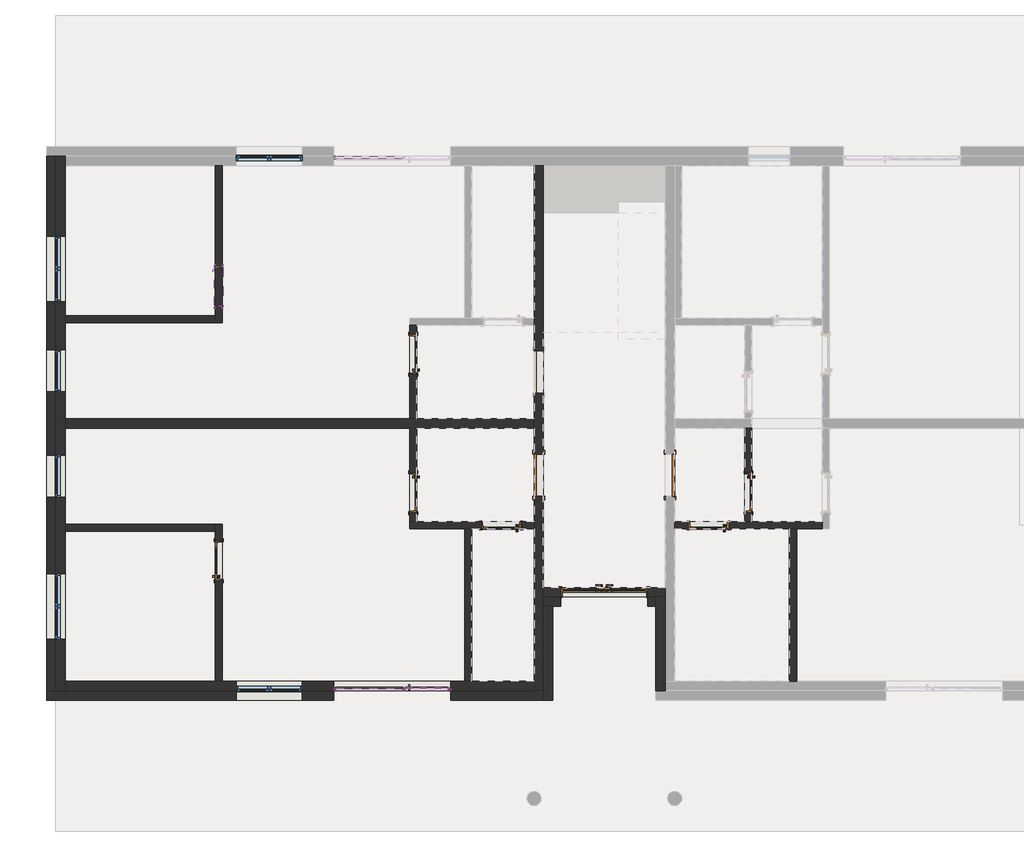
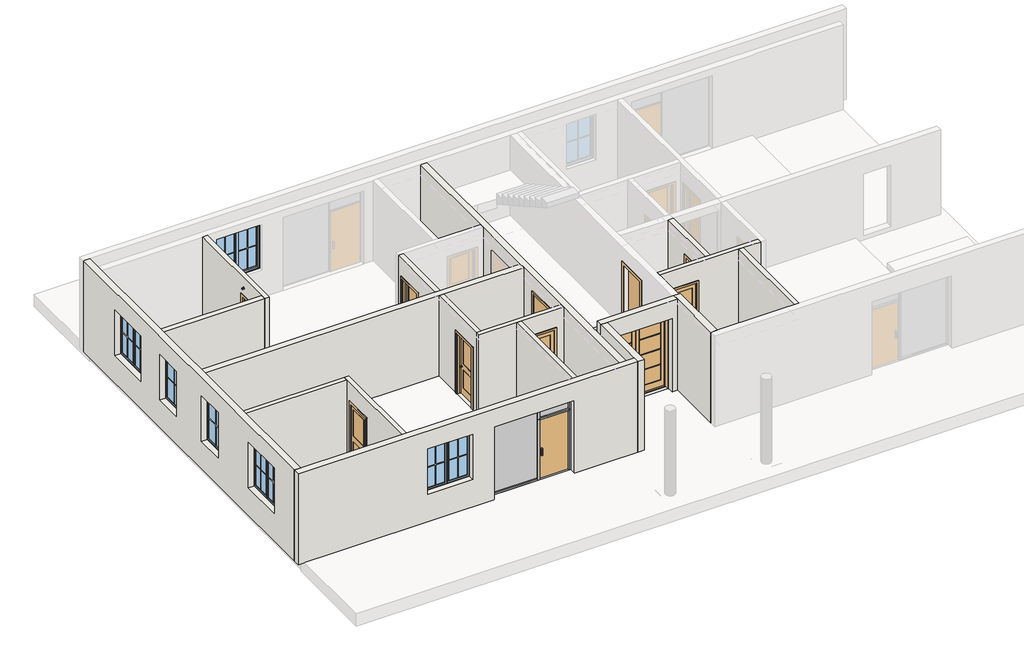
# One storey, part 1 of 3: 21 walls, 12 members, 11 doors, 6 windows, 2 plates.
"""IFC4 building model written with IfcOpenShell, lengths in millimetres."""

from ifc_helpers import new_model, si_unit, frame, origin, place, context, project, spatial, polyline, outline, extrude, faceted_brep, transform, mapped, element, save
from components import door_21d3b074, door_1800_x_2400mm_5ec7ffea, door_800_x_2000mm_7a4eaae7, door_800_x_2000mm_50fb24a1, door_800_x_2000mm_2_3f67a98c, door_900_x_2100mm_4fa88ec2, door_900_x_2100mm_1d00f630, member_50x50_mm_0b25df5f, member_50x50_mm_3bf2a5da, member_50x50_mm_d57dae31, member_50x50_mm_7f53e2b4, member_50x50_mm_58209b6d, member_50x50_mm_0f4eb3cd, member_50x50_mm_521fa47b, plate_9c89f185, plate_e159d5d1, window_1400_x_1500mm_e7e683e0, window_900_x_1500mm_75a88522

model = new_model("IFC4")

# Units and contexts
model_context = context("Model", 3, world=origin())
ifc_project = project(units=[si_unit("LENGTHUNIT", "METRE", prefix="MILLI")], contexts=[model_context])

# Site, building, storey
site = spatial("IfcSite", under=ifc_project)
building = spatial("IfcBuilding", under=site)
storey = spatial("IfcBuildingStorey", under=building, Name="Podlaží 1", Elevation=0.0)

# Doors
placement = place(None, origin())
door_shape = door_21d3b074(model_context)
element("IfcDoor", 1, ObjectType="M_Dveře, obvodový plášť, jednoduché zasklení : M_Dveře, obvodový plášť, jednoduché zasklení", at=placement, inside=storey, context=model_context, shape_type="MappedRepresentation", body=[
    mapped(door_shape, transform((7712.5, 2325.0, 0.0), x_axis=(1.0, 0.0, 0.0), y_axis=(0.0, 1.0, 0.0), z_axis=(0.0, 0.0, 1.0))),
])
door_1800_x_2400mm_shape = door_1800_x_2400mm_5ec7ffea(model_context)
element("IfcDoor", 2, ObjectType="M_Dveře, vnější, dvoukřídlé, prosklené, dřevo, obklad : 1800 x 2400mm", at=placement, inside=storey, context=model_context, shape_type="MappedRepresentation", body=[
    mapped(door_1800_x_2400mm_shape, transform((11500.0, 4403.175, 0.0), x_axis=(1.0, 0.0, 0.0), y_axis=(0.0, 1.0, 0.0), z_axis=(0.0, 0.0, 1.0))),
])
door_800_x_2000mm_shape = door_800_x_2000mm_7a4eaae7(model_context)
element("IfcDoor", 3, ObjectType="M_Dveře, vnitřní, jednokřídlé, dvě části, panel, dřevo : 800 x 2000mm", at=placement, inside=storey, context=model_context, shape_type="MappedRepresentation", body=[
    mapped(door_800_x_2000mm_shape, transform((7428.175, 9475.0, 0.0), x_axis=(0.0, 1.0, 0.0), y_axis=(-1.0, 0.0, 0.0), z_axis=(0.0, 0.0, 1.0))),
])
door_800_x_2000mm_2_shape = door_800_x_2000mm_50fb24a1(model_context)
element("IfcDoor", 4, ObjectType="M_Dveře, vnitřní, jednokřídlé, dvě části, panel, dřevo : 800 x 2000mm", at=placement, inside=storey, context=model_context, shape_type="MappedRepresentation", body=[
    mapped(door_800_x_2000mm_2_shape, transform((9300.0, 5821.825, 0.0), x_axis=(-1.0, 0.0, 0.0), y_axis=(0.0, -1.0, 0.0), z_axis=(0.0, 0.0, 1.0))),
])
element("IfcDoor", 5, ObjectType="M_Dveře, vnitřní, jednokřídlé, dvě části, panel, dřevo : 800 x 2000mm", at=placement, inside=storey, context=model_context, shape_type="MappedRepresentation", body=[
    mapped(door_800_x_2000mm_2_shape, transform((7428.175, 6525.0, 0.0), x_axis=(0.0, -1.0, 0.0), y_axis=(1.0, 0.0, 0.0), z_axis=(0.0, 0.0, 1.0))),
])
element("IfcDoor", 6, ObjectType="M_Dveře, vnitřní, jednokřídlé, dvě části, panel, dřevo : 800 x 2000mm", at=placement, inside=storey, context=model_context, shape_type="MappedRepresentation", body=[
    mapped(door_800_x_2000mm_2_shape, transform((3271.825, 5075.0, 0.0), x_axis=(0.0, 1.0, 0.0), y_axis=(-1.0, 0.0, 0.0), z_axis=(0.0, 0.0, 1.0))),
])
element("IfcDoor", 7, ObjectType="M_Dveře, vnitřní, jednokřídlé, dvě části, panel, dřevo : 800 x 2000mm", at=placement, inside=storey, context=model_context, shape_type="MappedRepresentation", body=[
    mapped(door_800_x_2000mm_2_shape, transform((14578.175, 6525.0, 0.0), x_axis=(0.0, -1.0, 0.0), y_axis=(1.0, 0.0, 0.0), z_axis=(0.0, 0.0, 1.0))),
])
element("IfcDoor", 8, ObjectType="M_Dveře, vnitřní, jednokřídlé, dvě části, panel, dřevo : 800 x 2000mm", at=placement, inside=storey, context=model_context, shape_type="MappedRepresentation", body=[
    mapped(door_800_x_2000mm_2_shape, transform((13725.0, 5821.825, 0.0), x_axis=(-1.0, 0.0, 0.0), y_axis=(0.0, -1.0, 0.0), z_axis=(0.0, 0.0, 1.0))),
])
door_800_x_2000mm_2_2_shape = door_800_x_2000mm_2_3f67a98c(model_context)
element("IfcDoor", 9, ObjectType="M_Dveře, vnitřní, jednokřídlé, dvě části, panel, dřevo : 800 x 2000mm 2", at=placement, inside=storey, context=model_context, shape_type="MappedRepresentation", body=[
    mapped(door_800_x_2000mm_2_2_shape, transform((3271.825, 10925.0, 1400.0), x_axis=(0.0, -1.0, 0.0), y_axis=(1.0, 0.0, 0.0), z_axis=(0.0, 0.0, 1.0))),
])
door_900_x_2100mm_shape = door_900_x_2100mm_4fa88ec2(model_context)
element("IfcDoor", 10, ObjectType="M_Dveře, jednokřídlé, panel : 900 x 2100mm", at=placement, inside=storey, context=model_context, shape_type="MappedRepresentation", body=[
    mapped(door_900_x_2100mm_shape, transform((12900.0, 6900.0, 0.0), x_axis=(0.0, 1.0, 0.0), y_axis=(-1.0, 0.0, 0.0), z_axis=(0.0, 0.0, 1.0))),
])
door_900_x_2100mm_2_shape = door_900_x_2100mm_1d00f630(model_context)
element("IfcDoor", 11, ObjectType="M_Dveře, jednokřídlé, panel : 900 x 2100mm", at=placement, inside=storey, context=model_context, shape_type="MappedRepresentation", body=[
    mapped(door_900_x_2100mm_2_shape, transform((10100.0, 6900.0, 0.0), x_axis=(0.0, 1.0, 0.0), y_axis=(-1.0, 0.0, 0.0), z_axis=(0.0, 0.0, 1.0))),
])

# Members
member_50x50_mm_shape = member_50x50_mm_0b25df5f(model_context)
element("IfcMember", 12, ObjectType="Obdélníková příčel : 50x50 mm", at=placement, inside=storey, context=model_context, shape_type="MappedRepresentation", body=[
    mapped(member_50x50_mm_shape, transform((5775.0, 2325.0, 2400.0), x_axis=(0.0, 0.0, 1.0), y_axis=(0.0, 1.0, 0.0), z_axis=(-1.0, 0.0, 0.0))),
])
member_50x50_mm_2_shape = member_50x50_mm_3bf2a5da(model_context)
element("IfcMember", 13, ObjectType="Obdélníková příčel : 50x50 mm", at=placement, inside=storey, context=model_context, shape_type="MappedRepresentation", body=[
    mapped(member_50x50_mm_2_shape, transform((7225.0, 2325.0, 0.0), x_axis=(-1.0, 0.0, 0.0), y_axis=(0.0, 1.0, 0.0), z_axis=(0.0, 0.0, -1.0))),
])
member_50x50_mm_3_shape = member_50x50_mm_d57dae31(model_context)
element("IfcMember", 14, ObjectType="Obdélníková příčel : 50x50 mm", at=placement, inside=storey, context=model_context, shape_type="MappedRepresentation", body=[
    mapped(member_50x50_mm_3_shape, transform((7250.0, 2325.0, 2000.0), x_axis=(0.0, 0.0, 1.0), y_axis=(0.0, 1.0, 0.0), z_axis=(-1.0, 0.0, 0.0))),
])
element("IfcMember", 15, ObjectType="Obdélníková příčel : 50x50 mm", at=placement, inside=storey, context=model_context, shape_type="MappedRepresentation", body=[
    mapped(member_50x50_mm_shape, transform((7200.0, 2325.0, 0.0), x_axis=(0.0, 0.0, -1.0), y_axis=(0.0, 1.0, 0.0), z_axis=(1.0, 0.0, 0.0))),
])
member_50x50_mm_4_shape = member_50x50_mm_7f53e2b4(model_context)
element("IfcMember", 16, ObjectType="Obdélníková příčel : 50x50 mm", at=placement, inside=storey, context=model_context, shape_type="MappedRepresentation", body=[
    mapped(member_50x50_mm_4_shape, transform((7250.0, 2325.0, 2400.0), x_axis=(0.0, 0.0, 1.0), y_axis=(0.0, 1.0, 0.0), z_axis=(-1.0, 0.0, 0.0))),
])
member_50x50_mm_5_shape = member_50x50_mm_58209b6d(model_context)
element("IfcMember", 17, ObjectType="Obdélníková příčel : 50x50 mm", at=placement, inside=storey, context=model_context, shape_type="MappedRepresentation", body=[
    mapped(member_50x50_mm_5_shape, transform((7225.0, 2325.0, 2000.0), x_axis=(-1.0, 0.0, 0.0), y_axis=(0.0, 1.0, 0.0), z_axis=(0.0, 0.0, -1.0))),
])
member_50x50_mm_6_shape = member_50x50_mm_0f4eb3cd(model_context)
element("IfcMember", 18, ObjectType="Obdélníková příčel : 50x50 mm", at=placement, inside=storey, context=model_context, shape_type="MappedRepresentation", body=[
    mapped(member_50x50_mm_6_shape, transform((8225.0, 2325.0, 2400.0), x_axis=(1.0, 0.0, 0.0), y_axis=(0.0, 1.0, 0.0), z_axis=(0.0, 0.0, 1.0))),
])
member_50x50_mm_7_shape = member_50x50_mm_521fa47b(model_context)
element("IfcMember", 19, ObjectType="Obdélníková příčel : 50x50 mm", at=placement, inside=storey, context=model_context, shape_type="MappedRepresentation", body=[
    mapped(member_50x50_mm_7_shape, transform((5725.0, 2325.0, 0.0), x_axis=(-1.0, 0.0, 0.0), y_axis=(0.0, 1.0, 0.0), z_axis=(0.0, 0.0, -1.0))),
])
element("IfcMember", 20, ObjectType="Obdélníková příčel : 50x50 mm", at=placement, inside=storey, context=model_context, shape_type="MappedRepresentation", body=[
    mapped(member_50x50_mm_6_shape, transform((5725.0, 2325.0, 2000.0), x_axis=(-1.0, 0.0, 0.0), y_axis=(0.0, 1.0, 0.0), z_axis=(0.0, 0.0, -1.0))),
])
element("IfcMember", 21, ObjectType="Obdélníková příčel : 50x50 mm", at=placement, inside=storey, context=model_context, shape_type="MappedRepresentation", body=[
    mapped(member_50x50_mm_7_shape, transform((8225.0, 2325.0, 2000.0), x_axis=(1.0, 0.0, 0.0), y_axis=(0.0, 1.0, 0.0), z_axis=(0.0, 0.0, 1.0))),
])
element("IfcMember", 22, ObjectType="Obdélníková příčel : 50x50 mm", at=placement, inside=storey, context=model_context, shape_type="MappedRepresentation", body=[
    mapped(member_50x50_mm_shape, transform((5775.0, 13675.0, 2400.0), x_axis=(0.0, 0.0, 1.0), y_axis=(0.0, 1.0, 0.0), z_axis=(-1.0, 0.0, 0.0))),
])
element("IfcMember", 23, ObjectType="Obdélníková příčel : 50x50 mm", at=placement, inside=storey, context=model_context, shape_type="MappedRepresentation", body=[
    mapped(member_50x50_mm_7_shape, transform((5725.0, 13675.0, 0.0), x_axis=(-1.0, 0.0, 0.0), y_axis=(0.0, 1.0, 0.0), z_axis=(0.0, 0.0, -1.0))),
])

# Plates
plate_shape = plate_9c89f185(model_context)
element("IfcPlate", 24, ObjectType="Systémový panel : Zasklené", at=placement, inside=storey, context=model_context, shape_type="MappedRepresentation", body=[
    mapped(plate_shape, transform((6487.5, 2325.0, 50.0), x_axis=(-1.0, 0.0, 0.0), y_axis=(0.0, -1.0, 0.0), z_axis=(0.0, 0.0, 1.0))),
])
plate_2_shape = plate_e159d5d1(model_context)
element("IfcPlate", 25, ObjectType="Systémový panel : Zasklené", at=placement, inside=storey, context=model_context, shape_type="MappedRepresentation", body=[
    mapped(plate_2_shape, transform((7712.5, 2325.0, 2025.0), x_axis=(-1.0, 0.0, 0.0), y_axis=(0.0, -1.0, 0.0), z_axis=(0.0, 0.0, 1.0))),
])

# Walls
element("IfcWall", 26, ObjectType="Železobeton 200 mm", at=placement, inside=storey, context=model_context, shape_type="Brep", body=[
    faceted_brep([(0.0, 2300.0, 2650.0), (0.0, 2300.0, -150.0), (0.0, 2500.0, -150.0), (0.0, 5700.0, -150.0), (0.0, 5850.0, -150.0), (0.0, 7900.0, -150.0), (0.0, 8100.0, -150.0), (0.0, 10150.0, -150.0), (0.0, 10300.0, -150.0), (0.0, 13500.0, -150.0), (0.0, 13700.0, -150.0), (0.0, 13700.0, 2650.0), (0.0, 13500.0, 2650.0), (0.0, 10300.0, 2650.0), (0.0, 10150.0, 2650.0), (0.0, 8100.0, 2650.0), (0.0, 7900.0, 2650.0), (0.0, 5850.0, 2650.0), (0.0, 5700.0, 2650.0), (0.0, 2500.0, 2650.0), (0.0, 3400.0, 2400.0), (0.0, 4800.0, 2400.0), (0.0, 4800.0, 900.0), (0.0, 3400.0, 900.0), (0.0, 10600.0, 2400.0), (0.0, 12000.0, 2400.0), (0.0, 12000.0, 900.0), (0.0, 10600.0, 900.0), (0.0, 6425.0, 2400.0), (0.0, 7325.0, 2400.0), (0.0, 7325.0, 900.0), (0.0, 6425.0, 900.0), (0.0, 8675.0, 2400.0), (0.0, 9575.0, 2400.0), (0.0, 9575.0, 900.0), (0.0, 8675.0, 900.0), (-200.0, 2300.0, -150.0), (-200.0, 2300.0, 0.0), (-200.0, 2300.0, 2650.0), (-200.0, 13700.0, 2650.0), (-200.0, 13700.0, 0.0), (-200.0, 13700.0, -150.0), (-200.0, 3400.0, 2400.0), (-200.0, 3400.0, 900.0), (-200.0, 4800.0, 900.0), (-200.0, 4800.0, 2400.0), (-200.0, 10600.0, 2400.0), (-200.0, 10600.0, 900.0), (-200.0, 12000.0, 900.0), (-200.0, 12000.0, 2400.0), (-200.0, 6425.0, 2400.0), (-200.0, 6425.0, 900.0), (-200.0, 7325.0, 900.0), (-200.0, 7325.0, 2400.0), (-200.0, 8675.0, 2400.0), (-200.0, 8675.0, 900.0), (-200.0, 9575.0, 900.0), (-200.0, 9575.0, 2400.0)], [[[0, 1, 2, 3, 4, 5, 6, 7, 8, 9, 10, 11, 12, 13, 14, 15, 16, 17, 18, 19], [20, 21, 22, 23], [24, 25, 26, 27], [28, 29, 30, 31], [32, 33, 34, 35]], [[36, 37, 38, 39, 40, 41], [42, 43, 44, 45], [46, 47, 48, 49], [50, 51, 52, 53], [54, 55, 56, 57]], [[10, 9, 8, 7, 6, 5, 4, 3, 2, 1, 36, 41]], [[0, 19, 18, 17, 16, 15, 14, 13, 12, 11, 39, 38]], [[43, 42, 20, 23]], [[44, 43, 23, 22]], [[45, 44, 22, 21]], [[42, 45, 21, 20]], [[47, 46, 24, 27]], [[48, 47, 27, 26]], [[49, 48, 26, 25]], [[46, 49, 25, 24]], [[51, 50, 28, 31]], [[52, 51, 31, 30]], [[53, 52, 30, 29]], [[50, 53, 29, 28]], [[55, 54, 32, 35]], [[56, 55, 35, 34]], [[57, 56, 34, 33]], [[54, 57, 33, 32]], [[10, 41, 40, 39, 11]], [[0, 38, 37, 36, 1]]]),
])
element("IfcWall", 27, ObjectType="Železobeton 200 mm", at=placement, inside=storey, context=model_context, shape_type="Brep", body=[
    faceted_brep([(12800.0, 4500.0, -150.0), (10200.0, 4500.0, -150.0), (10200.0, 4500.0, 2650.0), (12800.0, 4500.0, 2650.0), (12425.0, 4500.0, 0.0), (12425.0, 4500.0, 2425.0), (10575.0, 4500.0, 2425.0), (10575.0, 4500.0, 0.0), (10200.0, 4300.0, -150.0), (12800.0, 4300.0, -150.0), (12800.0, 4300.0, 0.0), (12800.0, 4300.0, 2650.0), (10200.0, 4300.0, 2650.0), (10200.0, 4300.0, 0.0), (12425.0, 4300.0, 2425.0), (12425.0, 4300.0, 0.0), (10575.0, 4300.0, 0.0), (10575.0, 4300.0, 2425.0)], [[[0, 1, 2, 3], [4, 5, 6, 7]], [[8, 9, 10, 11, 12, 13], [14, 15, 16, 17]], [[1, 0, 9, 8]], [[3, 2, 12, 11]], [[0, 3, 11, 10, 9]], [[2, 1, 8, 13, 12]], [[4, 15, 14, 5]], [[5, 14, 17, 6]], [[6, 17, 16, 7]], [[15, 4, 7, 16]]]),
])
element("IfcWall", 28, ObjectType="Železobeton 200 mm", at=placement, inside=storey, context=model_context, shape_type="Brep", body=[
    faceted_brep([(10000.0, 13500.0, -150.0), (10000.0, 10250.0, -150.0), (10000.0, 10100.0, -150.0), (10000.0, 8100.0, -150.0), (10000.0, 7900.0, -150.0), (10000.0, 5900.0, -150.0), (10000.0, 5750.0, -150.0), (10000.0, 2500.0, -150.0), (10000.0, 2300.0, -150.0), (10000.0, 2300.0, 2650.0), (10000.0, 2500.0, 2650.0), (10000.0, 5750.0, 2650.0), (10000.0, 5900.0, 2650.0), (10000.0, 7900.0, 2650.0), (10000.0, 8100.0, 2650.0), (10000.0, 10100.0, 2650.0), (10000.0, 10250.0, 2650.0), (10000.0, 13500.0, 2650.0), (10000.0, 9550.0, 0.0), (10000.0, 9550.0, 2100.0), (10000.0, 8650.0, 2100.0), (10000.0, 8650.0, 0.0), (10000.0, 6450.0, 0.0), (10000.0, 7350.0, 0.0), (10000.0, 7350.0, 2100.0), (10000.0, 6450.0, 2100.0), (10200.0, 13500.0, -150.0), (10200.0, 13500.0, 2650.0), (10200.0, 4500.0, 2650.0), (10200.0, 4300.0, 2650.0), (10200.0, 2300.0, 2650.0), (10200.0, 2300.0, 0.0), (10200.0, 2300.0, -150.0), (10200.0, 4300.0, -150.0), (10200.0, 4500.0, -150.0), (10200.0, 9550.0, 0.0), (10200.0, 8650.0, 0.0), (10200.0, 8650.0, 2100.0), (10200.0, 9550.0, 2100.0), (10200.0, 6450.0, 0.0), (10200.0, 6450.0, 2100.0), (10200.0, 7350.0, 2100.0), (10200.0, 7350.0, 0.0)], [[[0, 1, 2, 3, 4, 5, 6, 7, 8, 9, 10, 11, 12, 13, 14, 15, 16, 17], [18, 19, 20, 21], [22, 23, 24, 25]], [[26, 27, 28, 29, 30, 31, 32, 33, 34], [35, 36, 37, 38], [39, 40, 41, 42]], [[8, 7, 6, 5, 4, 3, 2, 1, 0, 26, 34, 33, 32]], [[17, 16, 15, 14, 13, 12, 11, 10, 9, 30, 29, 28, 27]], [[9, 8, 32, 31, 30]], [[0, 17, 27, 26]], [[36, 35, 18, 21]], [[37, 36, 21, 20]], [[38, 37, 20, 19]], [[35, 38, 19, 18]], [[23, 22, 39, 42]], [[24, 23, 42, 41]], [[25, 24, 41, 40]], [[22, 25, 40, 39]]]),
])
element("IfcWall", 29, ObjectType="Železobeton 200 mm", at=placement, inside=storey, context=model_context, shape_type="Brep", body=[
    faceted_brep([(10000.0, 2500.0, -150.0), (8675.0, 2500.0, -150.0), (8525.0, 2500.0, -150.0), (3350.0, 2500.0, -150.0), (3200.0, 2500.0, -150.0), (0.0, 2500.0, -150.0), (0.0, 2500.0, 2650.0), (3200.0, 2500.0, 2650.0), (3350.0, 2500.0, 2650.0), (8525.0, 2500.0, 2650.0), (8675.0, 2500.0, 2650.0), (10000.0, 2500.0, 2650.0), (5050.0, 2500.0, 900.0), (5050.0, 2500.0, 2400.0), (3650.0, 2500.0, 2400.0), (3650.0, 2500.0, 900.0), (8225.0, 2500.0, 0.0), (8225.0, 2500.0, 2400.0), (5725.0, 2500.0, 2400.0), (5725.0, 2500.0, 0.0), (0.0, 2300.0, -150.0), (10000.0, 2300.0, -150.0), (10000.0, 2300.0, 2650.0), (0.0, 2300.0, 2650.0), (5050.0, 2300.0, 2400.0), (5050.0, 2300.0, 900.0), (3650.0, 2300.0, 900.0), (3650.0, 2300.0, 2400.0), (8225.0, 2300.0, 2400.0), (8225.0, 2300.0, 0.0), (5725.0, 2300.0, 0.0), (5725.0, 2300.0, 2400.0)], [[[0, 1, 2, 3, 4, 5, 6, 7, 8, 9, 10, 11], [12, 13, 14, 15], [16, 17, 18, 19]], [[20, 21, 22, 23], [24, 25, 26, 27], [28, 29, 30, 31]], [[5, 4, 3, 2, 1, 0, 21, 20]], [[11, 10, 9, 8, 7, 6, 23, 22]], [[0, 11, 22, 21]], [[25, 24, 13, 12]], [[26, 25, 12, 15]], [[27, 26, 15, 14]], [[24, 27, 14, 13]], [[16, 29, 28, 17]], [[17, 28, 31, 18]], [[18, 31, 30, 19]], [[29, 16, 19, 30]], [[5, 20, 23, 6]]]),
])
element("IfcWall", 30, ObjectType="Železobeton 200 mm", at=placement, inside=storey, context=model_context, shape_type="Brep", body=[
    faceted_brep([(0.0, 7900.0, -150.0), (7350.0, 7900.0, -150.0), (7500.0, 7900.0, -150.0), (10000.0, 7900.0, -150.0), (10000.0, 7900.0, 2650.0), (7500.0, 7900.0, 2650.0), (7350.0, 7900.0, 2650.0), (0.0, 7900.0, 2650.0), (0.0, 8100.0, -150.0), (0.0, 8100.0, 2650.0), (7350.0, 8100.0, 2650.0), (7500.0, 8100.0, 2650.0), (10000.0, 8100.0, 2650.0), (10000.0, 8100.0, -150.0), (7500.0, 8100.0, -150.0), (7350.0, 8100.0, -150.0)], [[[0, 1, 2, 3, 4, 5, 6, 7]], [[8, 9, 10, 11, 12, 13, 14, 15]], [[3, 2, 1, 0, 8, 15, 14, 13]], [[7, 6, 5, 4, 12, 11, 10, 9]], [[4, 3, 13, 12]], [[0, 7, 9, 8]]]),
])
element("IfcWall", 31, ObjectType="Obecné, 150mm cihla", at=placement, inside=storey, context=model_context, shape_type="SweptSolid", body=[
    extrude(outline(polyline([(10100.0, -150.0), (8100.0, -150.0), (8100.0, 2650.0), (10100.0, 2650.0), (10100.0, -150.0)]), holes=[polyline([(9900.0, 0.0), (9900.0, 2025.0), (9050.0, 2025.0), (9050.0, 0.0), (9900.0, 0.0)])]), frame((7350.0, 0.0, 0.0), z_axis=(1.0, 0.0, 0.0), x_axis=(0.0, 1.0, 0.0)), (0.0, 0.0, 1.0), 150.0),
])
element("IfcWall", 32, ObjectType="Obecné, 150mm cihla", at=placement, inside=storey, context=model_context, shape_type="Brep", body=[
    faceted_brep([(3200.0, 13500.0, -150.0), (3200.0, 10300.0, -150.0), (3200.0, 10150.0, -150.0), (3200.0, 10150.0, 2650.0), (3200.0, 10300.0, 2650.0), (3200.0, 13500.0, 2650.0), (3200.0, 10500.0, 2025.0), (3200.0, 10500.0, 1400.0), (3200.0, 11350.0, 1400.0), (3200.0, 11350.0, 2025.0), (3350.0, 10150.0, -150.0), (3350.0, 13500.0, -150.0), (3350.0, 13500.0, 2650.0), (3350.0, 10150.0, 2650.0), (3350.0, 10500.0, 1400.0), (3350.0, 10500.0, 2025.0), (3350.0, 11350.0, 2025.0), (3350.0, 11350.0, 1400.0)], [[[0, 1, 2, 3, 4, 5], [6, 7, 8, 9]], [[10, 11, 12, 13], [14, 15, 16, 17]], [[2, 1, 0, 11, 10]], [[5, 4, 3, 13, 12]], [[0, 5, 12, 11]], [[3, 2, 10, 13]], [[14, 7, 6, 15]], [[15, 6, 9, 16]], [[16, 9, 8, 17]], [[7, 14, 17, 8]]]),
])
element("IfcWall", 33, ObjectType="Obecné, 150mm cihla", at=placement, inside=storey, context=model_context, shape_type="SweptSolid", body=[
    extrude(outline(polyline([(0.0, 10300.0), (3200.0, 10300.0), (3200.0, 10150.0), (0.0, 10150.0), (0.0, 10300.0)])), frame((0.0, 0.0, -150.0), z_axis=(0.0, 0.0, 1.0), x_axis=(1.0, 0.0, 0.0)), (0.0, 0.0, 1.0), 2800.0),
])
element("IfcWall", 34, ObjectType="Obecné, 150mm cihla", at=placement, inside=storey, context=model_context, shape_type="Brep", body=[
    faceted_brep([(10000.0, 5900.0, -150.0), (7500.0, 5900.0, -150.0), (7350.0, 5900.0, -150.0), (7350.0, 5900.0, 2650.0), (7500.0, 5900.0, 2650.0), (10000.0, 5900.0, 2650.0), (8875.0, 5900.0, 2025.0), (8875.0, 5900.0, 0.0), (9725.0, 5900.0, 0.0), (9725.0, 5900.0, 2025.0), (7350.0, 5750.0, -150.0), (8525.0, 5750.0, -150.0), (8675.0, 5750.0, -150.0), (10000.0, 5750.0, -150.0), (10000.0, 5750.0, 2650.0), (8675.0, 5750.0, 2650.0), (8525.0, 5750.0, 2650.0), (7350.0, 5750.0, 2650.0), (8875.0, 5750.0, 0.0), (8875.0, 5750.0, 2025.0), (9725.0, 5750.0, 2025.0), (9725.0, 5750.0, 0.0)], [[[0, 1, 2, 3, 4, 5], [6, 7, 8, 9]], [[10, 11, 12, 13, 14, 15, 16, 17], [18, 19, 20, 21]], [[2, 1, 0, 13, 12, 11, 10]], [[5, 4, 3, 17, 16, 15, 14]], [[3, 2, 10, 17]], [[0, 5, 14, 13]], [[18, 7, 6, 19]], [[19, 6, 9, 20]], [[20, 9, 8, 21]], [[7, 18, 21, 8]]]),
])
element("IfcWall", 35, ObjectType="Obecné, 150mm cihla", at=placement, inside=storey, context=model_context, shape_type="SweptSolid", body=[
    extrude(outline(polyline([(7900.0, -150.0), (5900.0, -150.0), (5900.0, 2650.0), (7900.0, 2650.0), (7900.0, -150.0)]), holes=[polyline([(6100.0, 2025.0), (6100.0, 0.0), (6950.0, 0.0), (6950.0, 2025.0), (6100.0, 2025.0)])]), frame((7350.0, 0.0, 0.0), z_axis=(1.0, 0.0, 0.0), x_axis=(0.0, 1.0, 0.0)), (0.0, 0.0, 1.0), 150.0),
])
element("IfcWall", 36, ObjectType="Obecné, 150mm cihla", at=placement, inside=storey, context=model_context, shape_type="SweptSolid", body=[
    extrude(outline(polyline([(8525.0, 2500.0), (8525.0, 5750.0), (8675.0, 5750.0), (8675.0, 2500.0), (8525.0, 2500.0)])), frame((0.0, 0.0, -150.0), z_axis=(0.0, 0.0, 1.0), x_axis=(1.0, 0.0, 0.0)), (0.0, 0.0, 1.0), 2800.0),
])
element("IfcWall", 37, ObjectType="Obecné, 150mm cihla", at=placement, inside=storey, context=model_context, shape_type="Brep", body=[
    faceted_brep([(3350.0, 2500.0, -150.0), (3350.0, 5850.0, -150.0), (3350.0, 5850.0, 2650.0), (3350.0, 2500.0, 2650.0), (3350.0, 5500.0, 2025.0), (3350.0, 5500.0, 0.0), (3350.0, 4650.0, 0.0), (3350.0, 4650.0, 2025.0), (3200.0, 5850.0, -150.0), (3200.0, 5700.0, -150.0), (3200.0, 2500.0, -150.0), (3200.0, 2500.0, 2650.0), (3200.0, 5700.0, 2650.0), (3200.0, 5850.0, 2650.0), (3200.0, 5500.0, 0.0), (3200.0, 5500.0, 2025.0), (3200.0, 4650.0, 2025.0), (3200.0, 4650.0, 0.0)], [[[0, 1, 2, 3], [4, 5, 6, 7]], [[8, 9, 10, 11, 12, 13], [14, 15, 16, 17]], [[1, 0, 10, 9, 8]], [[3, 2, 13, 12, 11]], [[2, 1, 8, 13]], [[0, 3, 11, 10]], [[14, 5, 4, 15]], [[15, 4, 7, 16]], [[16, 7, 6, 17]], [[5, 14, 17, 6]]]),
])
element("IfcWall", 38, ObjectType="Obecné, 150mm cihla", at=placement, inside=storey, context=model_context, shape_type="SweptSolid", body=[
    extrude(outline(polyline([(0.0, 5850.0), (3200.0, 5850.0), (3200.0, 5700.0), (0.0, 5700.0), (0.0, 5850.0)])), frame((0.0, 0.0, -150.0), z_axis=(0.0, 0.0, 1.0), x_axis=(1.0, 0.0, 0.0)), (0.0, 0.0, 1.0), 2800.0),
])
element("IfcWall", 39, ObjectType="Obecné, 150mm cihla", at=placement, inside=storey, context=model_context, shape_type="SweptSolid", body=[
    extrude(outline(polyline([(7900.0, -150.0), (5900.0, -150.0), (5900.0, 2650.0), (7900.0, 2650.0), (7900.0, -150.0)]), holes=[polyline([(6100.0, 2025.0), (6100.0, 0.0), (6950.0, 0.0), (6950.0, 2025.0), (6100.0, 2025.0)])]), frame((14500.0, 0.0, 0.0), z_axis=(1.0, 0.0, 0.0), x_axis=(0.0, 1.0, 0.0)), (0.0, 0.0, 1.0), 150.0),
])
element("IfcWall", 40, ObjectType="Obecné, 150mm cihla", at=placement, inside=storey, context=model_context, shape_type="Brep", body=[
    faceted_brep([(13000.0, 5750.0, -150.0), (15450.0, 5750.0, -150.0), (15600.0, 5750.0, -150.0), (16150.0, 5750.0, -150.0), (16150.0, 5750.0, 2650.0), (15600.0, 5750.0, 2650.0), (15450.0, 5750.0, 2650.0), (13000.0, 5750.0, 2650.0), (13300.0, 5750.0, 0.0), (13300.0, 5750.0, 2025.0), (14150.0, 5750.0, 2025.0), (14150.0, 5750.0, 0.0), (16150.0, 5900.0, -150.0), (14650.0, 5900.0, -150.0), (14500.0, 5900.0, -150.0), (13000.0, 5900.0, -150.0), (13000.0, 5900.0, 2650.0), (14500.0, 5900.0, 2650.0), (14650.0, 5900.0, 2650.0), (16150.0, 5900.0, 2650.0), (13300.0, 5900.0, 2025.0), (13300.0, 5900.0, 0.0), (14150.0, 5900.0, 0.0), (14150.0, 5900.0, 2025.0)], [[[0, 1, 2, 3, 4, 5, 6, 7], [8, 9, 10, 11]], [[12, 13, 14, 15, 16, 17, 18, 19], [20, 21, 22, 23]], [[3, 2, 1, 0, 15, 14, 13, 12]], [[7, 6, 5, 4, 19, 18, 17, 16]], [[0, 7, 16, 15]], [[4, 3, 12, 19]], [[8, 21, 20, 9]], [[9, 20, 23, 10]], [[10, 23, 22, 11]], [[21, 8, 11, 22]]]),
])
element("IfcWall", 41, ObjectType="Obecné, 150mm cihla", at=placement, inside=storey, context=model_context, shape_type="SweptSolid", body=[
    extrude(outline(polyline([(15450.0, 2500.0), (15450.0, 5750.0), (15600.0, 5750.0), (15600.0, 2500.0), (15450.0, 2500.0)])), frame((0.0, 0.0, -150.0), z_axis=(0.0, 0.0, 1.0), x_axis=(1.0, 0.0, 0.0)), (0.0, 0.0, 1.0), 2800.0),
])
element("IfcWall", 42, ObjectType="ETICS, 200mm", at=placement, inside=storey, context=model_context, shape_type="Brep", body=[
    faceted_brep([(12800.0, 2300.0, 0.0), (12800.0, 4300.0, 0.0), (12800.0, 4300.0, 2650.0), (12800.0, 4300.0, 3000.0), (12800.0, 2300.0, 3000.0), (12800.0, 2300.0, 2650.0), (12600.0, 2300.0, 0.0), (12600.0, 2300.0, 3000.0), (12600.0, 4100.0, 3000.0), (12600.0, 4300.0, 3000.0), (12600.0, 4300.0, 0.0), (12600.0, 4100.0, 0.0)], [[[0, 1, 2, 3, 4, 5]], [[6, 7, 8, 9, 10, 11]], [[1, 0, 6, 11, 10]], [[4, 3, 9, 8, 7]], [[0, 5, 4, 7, 6]], [[3, 2, 1, 10, 9]]]),
])
element("IfcWall", 43, ObjectType="ETICS, 200mm", at=placement, inside=storey, context=model_context, shape_type="Brep", body=[
    faceted_brep([(10200.0, 4300.0, 3000.0), (12600.0, 4300.0, 3000.0), (12600.0, 4300.0, 0.0), (12425.0, 4300.0, 0.0), (12425.0, 4300.0, 2425.0), (10575.0, 4300.0, 2425.0), (10575.0, 4300.0, 0.0), (10200.0, 4300.0, 0.0), (10200.0, 4300.0, 2650.0), (12600.0, 4100.0, 3000.0), (10400.0, 4100.0, 3000.0), (10200.0, 4100.0, 3000.0), (10200.0, 4100.0, 0.0), (10400.0, 4100.0, 0.0), (10575.0, 4100.0, 0.0), (10575.0, 4100.0, 2425.0), (12425.0, 4100.0, 2425.0), (12425.0, 4100.0, 0.0), (12600.0, 4100.0, 0.0)], [[[0, 1, 2, 3, 4, 5, 6, 7, 8]], [[9, 10, 11, 12, 13, 14, 15, 16, 17, 18]], [[2, 18, 17, 3]], [[12, 7, 6, 14, 13]], [[1, 0, 11, 10, 9]], [[2, 1, 9, 18]], [[0, 8, 7, 12, 11]], [[16, 4, 3, 17]], [[4, 16, 15, 5]], [[5, 15, 14, 6]]]),
])
element("IfcWall", 44, ObjectType="ETICS, 200mm", at=placement, inside=storey, context=model_context, shape_type="Brep", body=[
    faceted_brep([(10200.0, 4100.0, 0.0), (10200.0, 2300.0, 0.0), (10200.0, 2100.0, 0.0), (10200.0, 2100.0, 3000.0), (10200.0, 2300.0, 3000.0), (10200.0, 4100.0, 3000.0), (10400.0, 4100.0, 0.0), (10400.0, 4100.0, 3000.0), (10400.0, 2100.0, 3000.0), (10400.0, 2100.0, 0.0)], [[[0, 1, 2, 3, 4, 5]], [[6, 7, 8, 9]], [[2, 1, 0, 6, 9]], [[5, 4, 3, 8, 7]], [[3, 2, 9, 8]], [[0, 5, 7, 6]]]),
])
element("IfcWall", 45, ObjectType="ETICS, 200mm", at=placement, inside=storey, context=model_context, shape_type="Brep", body=[
    faceted_brep([(-400.0, 2300.0, 3000.0), (-200.0, 2300.0, 3000.0), (10200.0, 2300.0, 3000.0), (10200.0, 2300.0, 2650.0), (10200.0, 2300.0, 0.0), (8225.0, 2300.0, 0.0), (8225.0, 2300.0, 2400.0), (5725.0, 2300.0, 2400.0), (5725.0, 2300.0, 0.0), (-200.0, 2300.0, 0.0), (-400.0, 2300.0, 0.0), (5050.0, 2300.0, 900.0), (5050.0, 2300.0, 2400.0), (3650.0, 2300.0, 2400.0), (3650.0, 2300.0, 900.0), (10200.0, 2100.0, 3000.0), (-400.0, 2100.0, 3000.0), (-400.0, 2100.0, 0.0), (5725.0, 2100.0, 0.0), (5725.0, 2100.0, 2400.0), (8225.0, 2100.0, 2400.0), (8225.0, 2100.0, 0.0), (10200.0, 2100.0, 0.0), (5050.0, 2100.0, 2400.0), (5050.0, 2100.0, 900.0), (3650.0, 2100.0, 900.0), (3650.0, 2100.0, 2400.0)], [[[0, 1, 2, 3, 4, 5, 6, 7, 8, 9, 10], [11, 12, 13, 14]], [[15, 16, 17, 18, 19, 20, 21, 22], [23, 24, 25, 26]], [[4, 22, 21, 5]], [[17, 10, 9, 8, 18]], [[2, 1, 0, 16, 15]], [[4, 3, 2, 15, 22]], [[24, 23, 12, 11]], [[25, 24, 11, 14]], [[26, 25, 14, 13]], [[23, 26, 13, 12]], [[20, 6, 5, 21]], [[6, 20, 19, 7]], [[7, 19, 18, 8]], [[10, 17, 16, 0]]]),
])
element("IfcWall", 46, ObjectType="ETICS, 200mm", at=placement, inside=storey, context=model_context, shape_type="Brep", body=[
    faceted_brep([(-200.0, 2300.0, 3000.0), (-200.0, 2300.0, 2650.0), (-200.0, 2300.0, 0.0), (-200.0, 13700.0, 0.0), (-200.0, 13700.0, 2650.0), (-200.0, 13700.0, 3000.0), (-200.0, 3400.0, 2400.0), (-200.0, 4800.0, 2400.0), (-200.0, 4800.0, 900.0), (-200.0, 3400.0, 900.0), (-200.0, 10600.0, 2400.0), (-200.0, 12000.0, 2400.0), (-200.0, 12000.0, 900.0), (-200.0, 10600.0, 900.0), (-200.0, 6425.0, 2400.0), (-200.0, 7325.0, 2400.0), (-200.0, 7325.0, 900.0), (-200.0, 6425.0, 900.0), (-200.0, 8675.0, 2400.0), (-200.0, 9575.0, 2400.0), (-200.0, 9575.0, 900.0), (-200.0, 8675.0, 900.0), (-400.0, 2300.0, 0.0), (-400.0, 2300.0, 3000.0), (-400.0, 13700.0, 3000.0), (-400.0, 13700.0, 0.0), (-400.0, 3400.0, 2400.0), (-400.0, 3400.0, 900.0), (-400.0, 4800.0, 900.0), (-400.0, 4800.0, 2400.0), (-400.0, 10600.0, 2400.0), (-400.0, 10600.0, 900.0), (-400.0, 12000.0, 900.0), (-400.0, 12000.0, 2400.0), (-400.0, 6425.0, 2400.0), (-400.0, 6425.0, 900.0), (-400.0, 7325.0, 900.0), (-400.0, 7325.0, 2400.0), (-400.0, 8675.0, 2400.0), (-400.0, 8675.0, 900.0), (-400.0, 9575.0, 900.0), (-400.0, 9575.0, 2400.0)], [[[0, 1, 2, 3, 4, 5], [6, 7, 8, 9], [10, 11, 12, 13], [14, 15, 16, 17], [18, 19, 20, 21]], [[22, 23, 24, 25], [26, 27, 28, 29], [30, 31, 32, 33], [34, 35, 36, 37], [38, 39, 40, 41]], [[3, 2, 22, 25]], [[0, 5, 24, 23]], [[27, 26, 6, 9]], [[28, 27, 9, 8]], [[29, 28, 8, 7]], [[26, 29, 7, 6]], [[31, 30, 10, 13]], [[32, 31, 13, 12]], [[33, 32, 12, 11]], [[30, 33, 11, 10]], [[35, 34, 14, 17]], [[36, 35, 17, 16]], [[37, 36, 16, 15]], [[34, 37, 15, 14]], [[39, 38, 18, 21]], [[40, 39, 21, 20]], [[41, 40, 20, 19]], [[38, 41, 19, 18]], [[3, 25, 24, 5, 4]], [[0, 23, 22, 2, 1]]]),
])

# Windows
window_1400_x_1500mm_shape = window_1400_x_1500mm_e7e683e0(model_context)
element("IfcWindow", 47, ObjectType="M_Okno, dvoukřídlé : 1400 x 1500mm", at=placement, inside=storey, context=model_context, shape_type="MappedRepresentation", body=[
    mapped(window_1400_x_1500mm_shape, transform((4350.0, 2400.0, 0.0), x_axis=(1.0, 0.0, 0.0), y_axis=(0.0, 1.0, 0.0), z_axis=(0.0, 0.0, 1.0))),
])
element("IfcWindow", 48, ObjectType="M_Okno, dvoukřídlé : 1400 x 1500mm", at=placement, inside=storey, context=model_context, shape_type="MappedRepresentation", body=[
    mapped(window_1400_x_1500mm_shape, transform((-100.0, 4100.0, 0.0), x_axis=(0.0, -1.0, 0.0), y_axis=(1.0, 0.0, 0.0), z_axis=(0.0, 0.0, 1.0))),
])
element("IfcWindow", 49, ObjectType="M_Okno, dvoukřídlé : 1400 x 1500mm", at=placement, inside=storey, context=model_context, shape_type="MappedRepresentation", body=[
    mapped(window_1400_x_1500mm_shape, transform((-100.0, 11300.0, 0.0), x_axis=(0.0, -1.0, 0.0), y_axis=(1.0, 0.0, 0.0), z_axis=(0.0, 0.0, 1.0))),
])
element("IfcWindow", 50, ObjectType="M_Okno, dvoukřídlé : 1400 x 1500mm", at=placement, inside=storey, context=model_context, shape_type="MappedRepresentation", body=[
    mapped(window_1400_x_1500mm_shape, transform((4350.0, 13600.0, 0.0), x_axis=(-1.0, 0.0, 0.0), y_axis=(0.0, -1.0, 0.0), z_axis=(0.0, 0.0, 1.0))),
])
window_900_x_1500mm_shape = window_900_x_1500mm_75a88522(model_context)
element("IfcWindow", 51, ObjectType="M_Okno, křídlo, samostatné levé : 900 x 1500mm", at=placement, inside=storey, context=model_context, shape_type="MappedRepresentation", body=[
    mapped(window_900_x_1500mm_shape, transform((-100.0, 6875.0, 0.0), x_axis=(0.0, -1.0, 0.0), y_axis=(1.0, 0.0, 0.0), z_axis=(0.0, 0.0, 1.0))),
])
element("IfcWindow", 52, ObjectType="M_Okno, křídlo, samostatné levé : 900 x 1500mm", at=placement, inside=storey, context=model_context, shape_type="MappedRepresentation", body=[
    mapped(window_900_x_1500mm_shape, transform((-100.0, 9125.0, 0.0), x_axis=(0.0, -1.0, 0.0), y_axis=(1.0, 0.0, 0.0), z_axis=(0.0, 0.0, 1.0))),
])

save(model, "model.ifc")
